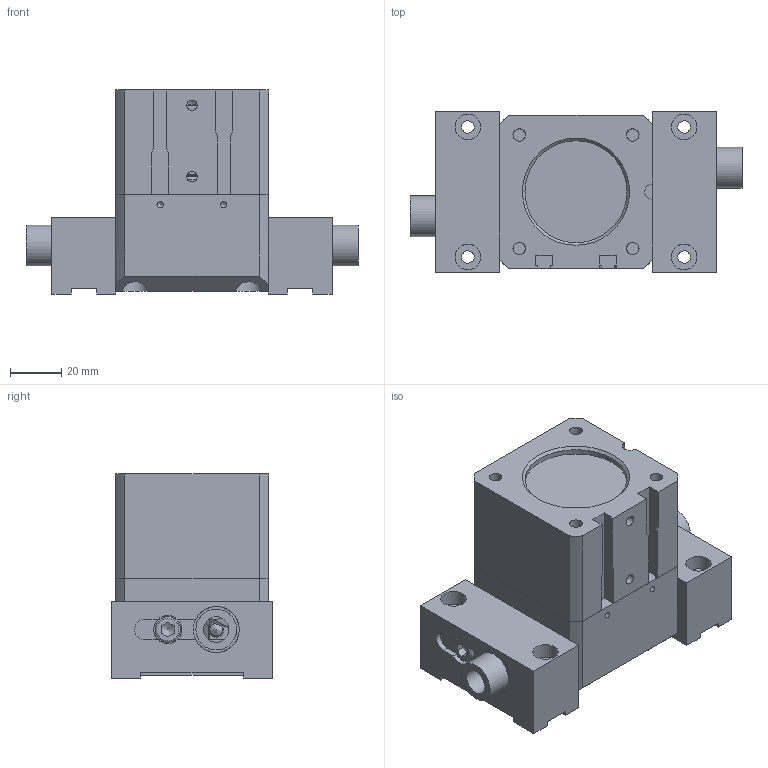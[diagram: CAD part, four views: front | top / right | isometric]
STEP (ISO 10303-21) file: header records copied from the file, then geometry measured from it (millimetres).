
FILE_DESCRIPTION((''),'2;1');
FILE_NAME('T:\CAD\Standard\Daten\3D-Datenbank\GP\4 - 3D-CAD-Daten GP 050-125\GP080\step-Daten\G-GP080-l1-O+UB closed.stp','2013-11-04T15:49:00',('Dirk'),(''),'Autodesk Inventor 2011','Autodesk Inventor 2011','');
FILE_SCHEMA(('AUTOMOTIVE_DESIGN { 1 0 10303 214 1 1 1 1 }'));
Length unit declared in the file: millimetre
Products named in the file (17): G-GP080-l1-GS; G-GG080-1; G-GG080-2; G-GP080-3; G-GP080-4; G-GP080-5; G-GP080-6; DIN 7991-M10x20; DIN 3771 47,5 x 3,55 - N - NBR 70; Q-18,2x3,53; Q-39,2x5,33; 50_35x2,5; DIN 912-M6x25; 1618DU; 1625DU; DIN 912-M6x35; Sonder-16_33_40
Assembly tree (26 placements, depth 2):
  G-GP080-l1-GS
    G-GG080-1
    G-GG080-2
    G-GP080-3
    G-GP080-4
    G-GP080-5  x2
    G-GP080-6  x2
    DIN 7991-M10x20
    DIN 3771 47,5 x 3,55 - N - NBR 70
    Q-18,2x3,53
    Q-39,2x5,33
    50_35x2,5
    DIN 912-M6x25  x2
    1618DU  x4
    1625DU  x2
    DIN 912-M6x35  x4
    Sonder-16_33_40
Bounding box: 130.19 x 63 x 80 mm (x, y, z)
Volume: 310092.8 mm3; surface area: 139377 mm2
Topology: 26 solids, 26 shells, 425 faces, 1007 edges, 655 vertices
Faces by surface type: plane 250, cylinder 115, cone 35, torus 24, bspline 1
Full cylindrical faces by diameter (mm): 2.459 x2, 4.134 x2, 4.917 x8, 5 x2, 6 x6, 6.5 x4, 6.6 x2, 8.376 x1, 10 x13, 10.5 x1, 11 x8, 16 x8, 18 x14, 20 x2, 24.4 x2, 26 x2, 35 x2, 36 x2, 40 x2, 40.2 x2, 47.1 x1, 50 x6
Entity records: 9260 total; most frequent: CARTESIAN_POINT 2396, DIRECTION 1410, ORIENTED_EDGE 1110, AXIS2_PLACEMENT_3D 565, EDGE_CURVE 555, EDGE_LOOP 456, VERTEX_POINT 417, FACE_OUTER_BOUND 287
